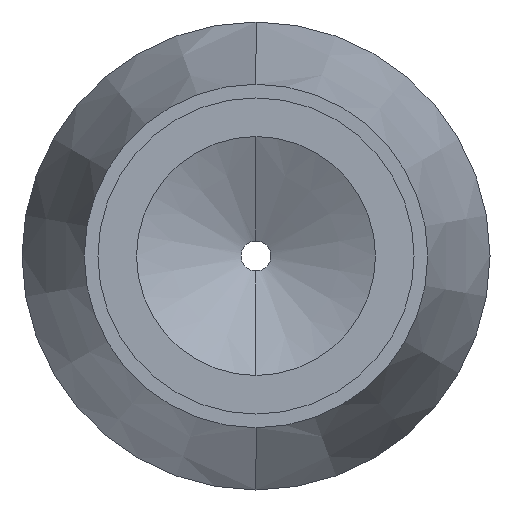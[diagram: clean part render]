
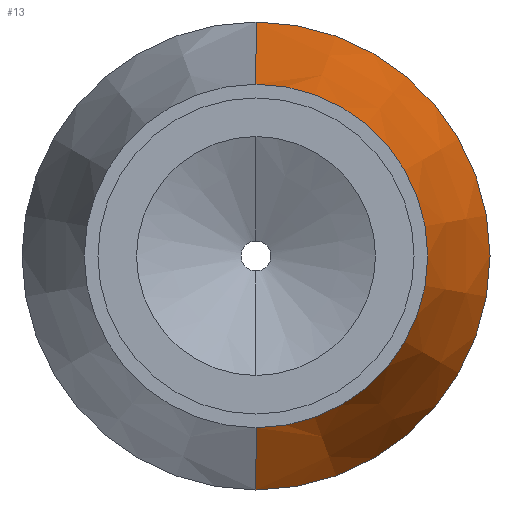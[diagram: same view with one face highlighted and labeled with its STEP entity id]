
A CAD part, left-side view. The second image highlights one B-rep face of the part: STEP entity #13.
In plain terms, the highlighted conical face has half-angle 15 degrees and reference radius 3.45 mm.
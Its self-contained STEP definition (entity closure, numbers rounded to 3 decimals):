
#13 = ADVANCED_FACE ( 'NONE', ( #288 ), #287, .T. ) ;
#14 = EDGE_LOOP ( 'NONE', ( #15, #19, #531, #475 ) ) ;
#15 = ORIENTED_EDGE ( 'NONE', *, *, #16, .F. ) ;
#16 = EDGE_CURVE ( 'NONE', #17, #18, #519, .T. ) ;
#17 = VERTEX_POINT ( 'NONE', #514 ) ;
#18 = VERTEX_POINT ( 'NONE', #513 ) ;
#19 = ORIENTED_EDGE ( 'NONE', *, *, #20, .T. ) ;
#20 = EDGE_CURVE ( 'NONE', #17, #530, #512, .T. ) ;
#284 = DIRECTION ( 'NONE',  ( 1., 0., 0. ) ) ;
#285 = CARTESIAN_POINT ( 'NONE',  ( 5.4, 0., 0. ) ) ;
#286 = AXIS2_PLACEMENT_3D ( 'NONE', #285, #284, #520 ) ;
#287 = CONICAL_SURFACE ( 'NONE', #286, 3.45, 0.262 ) ;
#288 = FACE_OUTER_BOUND ( 'NONE', #14, .T. ) ;
#473 = EDGE_CURVE ( 'NONE', #530, #474, #908, .T. ) ;
#474 = VERTEX_POINT ( 'NONE', #903 ) ;
#475 = ORIENTED_EDGE ( 'NONE', *, *, #476, .F. ) ;
#476 = EDGE_CURVE ( 'NONE', #18, #474, #902, .T. ) ;
#509 = DIRECTION ( 'NONE',  ( 0.966, 0., -0.259 ) ) ;
#510 = VECTOR ( 'NONE', #509, 1000. ) ;
#511 = CARTESIAN_POINT ( 'NONE',  ( 5.4, 0., -3.45 ) ) ;
#512 = LINE ( 'NONE', #511, #510 ) ;
#513 = CARTESIAN_POINT ( 'NONE',  ( 5.4, 0., 3.45 ) ) ;
#514 = CARTESIAN_POINT ( 'NONE',  ( 5.4, 0., -3.45 ) ) ;
#515 = DIRECTION ( 'NONE',  ( 0., 0., 1. ) ) ;
#516 = DIRECTION ( 'NONE',  ( -1., 0., 0. ) ) ;
#517 = CARTESIAN_POINT ( 'NONE',  ( 5.4, 0., 0. ) ) ;
#518 = AXIS2_PLACEMENT_3D ( 'NONE', #517, #516, #515 ) ;
#519 = CIRCLE ( 'NONE', #518, 3.45 ) ;
#520 = DIRECTION ( 'NONE',  ( 0., 0., 1. ) ) ;
#530 = VERTEX_POINT ( 'NONE', #854 ) ;
#531 = ORIENTED_EDGE ( 'NONE', *, *, #473, .T. ) ;
#854 = CARTESIAN_POINT ( 'NONE',  ( 10.065, 0., -4.7 ) ) ;
#899 = DIRECTION ( 'NONE',  ( 0.966, 0., 0.259 ) ) ;
#900 = VECTOR ( 'NONE', #899, 1000. ) ;
#901 = CARTESIAN_POINT ( 'NONE',  ( 5.4, 0., 3.45 ) ) ;
#902 = LINE ( 'NONE', #901, #900 ) ;
#903 = CARTESIAN_POINT ( 'NONE',  ( 10.065, 0., 4.7 ) ) ;
#904 = DIRECTION ( 'NONE',  ( 0., 0., -1. ) ) ;
#905 = DIRECTION ( 'NONE',  ( -1., 0., 0. ) ) ;
#906 = CARTESIAN_POINT ( 'NONE',  ( 10.065, 0., 0. ) ) ;
#907 = AXIS2_PLACEMENT_3D ( 'NONE', #906, #905, #904 ) ;
#908 = CIRCLE ( 'NONE', #907, 4.7 ) ;
